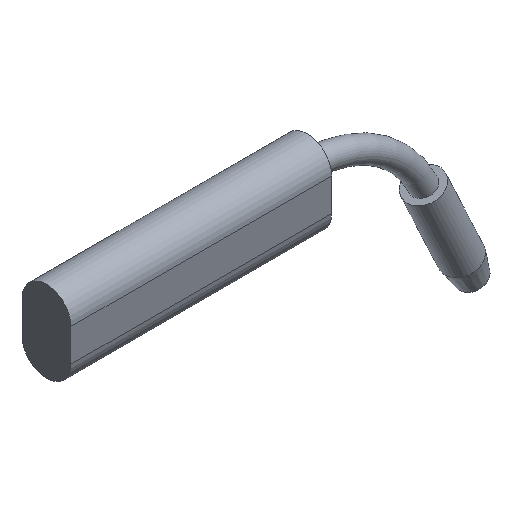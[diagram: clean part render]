
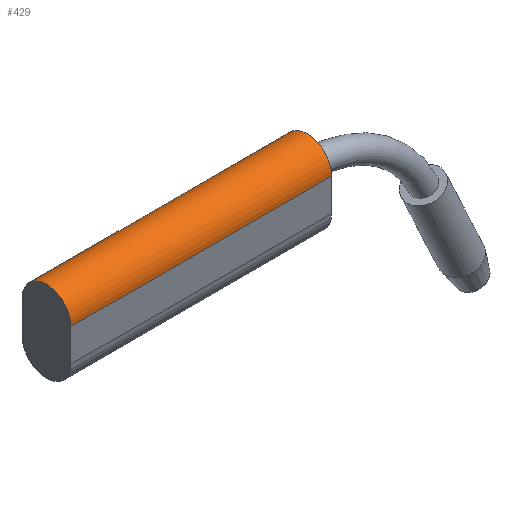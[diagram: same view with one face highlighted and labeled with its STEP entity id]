
A CAD part, isometric view. The second image highlights one B-rep face of the part: STEP entity #429.
In plain terms, the highlighted cylindrical face has radius 15 mm (diameter 30 mm), a partial arc.
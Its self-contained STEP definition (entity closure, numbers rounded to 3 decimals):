
#289=CARTESIAN_POINT('',(-80.0,15.0,10.0));
#290=VERTEX_POINT('',#289);
#297=CARTESIAN_POINT('',(80.0,15.0,10.0));
#298=VERTEX_POINT('',#297);
#299=CARTESIAN_POINT('',(80.0,15.0,10.0));
#300=DIRECTION('',(-1.0,0.0,0.0));
#301=VECTOR('',#300,160.0);
#302=LINE('',#299,#301);
#303=EDGE_CURVE('',#298,#290,#302,.T.);
#328=CARTESIAN_POINT('',(-80.0,-15.0,10.0));
#329=VERTEX_POINT('',#328);
#336=CARTESIAN_POINT('',(-80.0,0.0,10.0));
#337=DIRECTION('',(1.,0.0,0.0));
#338=DIRECTION('',(0.0,-0.707,0.707));
#339=AXIS2_PLACEMENT_3D('',#336,#337,#338);
#340=CIRCLE('',#339,15.0);
#341=EDGE_CURVE('',#290,#329,#340,.T.);
#378=CARTESIAN_POINT('',(80.0,-15.0,10.0));
#379=VERTEX_POINT('',#378);
#386=CARTESIAN_POINT('',(-80.0,-15.0,10.0));
#387=DIRECTION('',(1.0,0.0,0.0));
#388=VECTOR('',#387,160.0);
#389=LINE('',#386,#388);
#390=EDGE_CURVE('',#329,#379,#389,.T.);
#403=CARTESIAN_POINT('',(80.0,0.0,10.0));
#404=DIRECTION('',(-1.,0.0,0.0));
#405=DIRECTION('',(0.0,-0.707,0.707));
#406=AXIS2_PLACEMENT_3D('',#403,#404,#405);
#407=CIRCLE('',#406,15.0);
#408=EDGE_CURVE('',#379,#298,#407,.T.);
#418=CARTESIAN_POINT('',(40.0,0.0,10.0));
#419=DIRECTION('',(-1.0,0.0,0.0));
#420=DIRECTION('',(0.0,0.707,0.707));
#421=AXIS2_PLACEMENT_3D('',#418,#419,#420);
#422=CYLINDRICAL_SURFACE('',#421,15.);
#423=ORIENTED_EDGE('',*,*,#341,.T.);
#424=ORIENTED_EDGE('',*,*,#390,.T.);
#425=ORIENTED_EDGE('',*,*,#408,.T.);
#426=ORIENTED_EDGE('',*,*,#303,.T.);
#427=EDGE_LOOP('',(#423,#424,#425,#426));
#428=FACE_OUTER_BOUND('',#427,.T.);
#429=ADVANCED_FACE('',(#428),#422,.T.);
